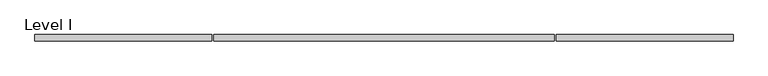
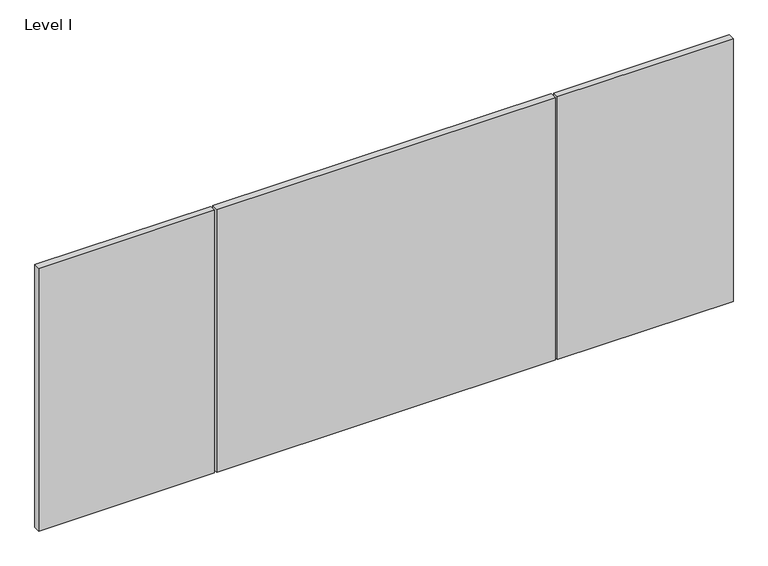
"""IFC4 building model written with IfcOpenShell, lengths in millimetres: proxy geometry, Panel-Fascia-Teknion-Altos-Landscape_Desk : Level I."""

from ifc_helpers import new_model, si_unit, frame, origin, place, context, project, spatial, polyline, outline, extrude, source, transform, mapped, element, save


def level_i_4afae145(model_context):
    return source(origin(), model_context, "Body", "SweptSolid", [
        extrude(outline(polyline([(-1012.8305562, -9.525), (-1012.8305562, 9.525), (-500.0498, 9.525), (-500.0498, -9.525), (-1012.8305562, -9.525)])), frame((0.0, 0.0, 3.175), z_axis=(0.0, 0.0, 1.0), x_axis=(1.0, 0.0, 0.0)), (0.0, 0.0, 1.0), 810.768),
        extrude(outline(polyline([(1012.8305563, 9.525), (1012.8305563, -9.525), (500.0498, -9.525), (500.0498, 9.525), (1012.8305563, 9.525)])), frame((0.0, 0.0, 3.175), z_axis=(0.0, 0.0, 1.0), x_axis=(1.0, 0.0, 0.0)), (0.0, 0.0, 1.0), 810.768),
        extrude(outline(polyline([(493.6998, -9.525), (-493.6998, -9.525), (-493.6998, 9.525), (493.6998, 9.525), (493.6998, -9.525)])), frame((0.0, 0.0, 3.175), z_axis=(0.0, 0.0, 1.0), x_axis=(1.0, 0.0, 0.0)), (0.0, 0.0, 1.0), 810.768),
    ])


if __name__ == "__main__":
    model = new_model("IFC4")
    model_context = context("Model", 3, world=origin())
    ifc_project = project(units=[si_unit("LENGTHUNIT", "METRE", prefix="MILLI")], contexts=[model_context])
    site = spatial("IfcSite", under=ifc_project)
    building = spatial("IfcBuilding", under=site)
    placement = place(None, origin())
    level_i_shape = level_i_4afae145(model_context)
    element("IfcBuildingElementProxy", 1, Name="Panel-Fascia-Teknion-Altos-Landscape_Desk : Level I", ObjectType="Panel-Fascia-Teknion-Altos-Landscape_Desk : Level I", at=placement, inside=building, context=model_context, shape_type="MappedRepresentation", body=[
        mapped(level_i_shape, transform((0.0, 0.0, 0.0), x_axis=(1.0, 0.0, 0.0), y_axis=(0.0, 1.0, 0.0), z_axis=(0.0, 0.0, 1.0))),
    ])
    save(model, "model.ifc")
